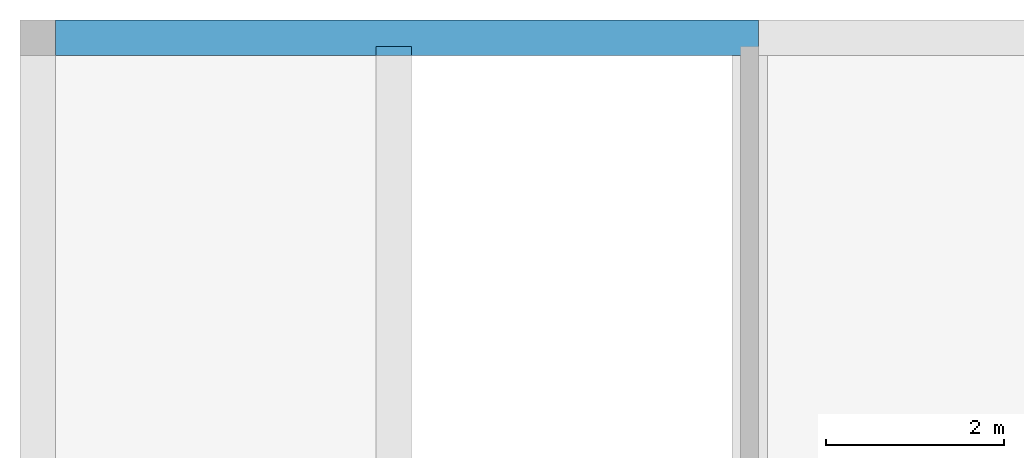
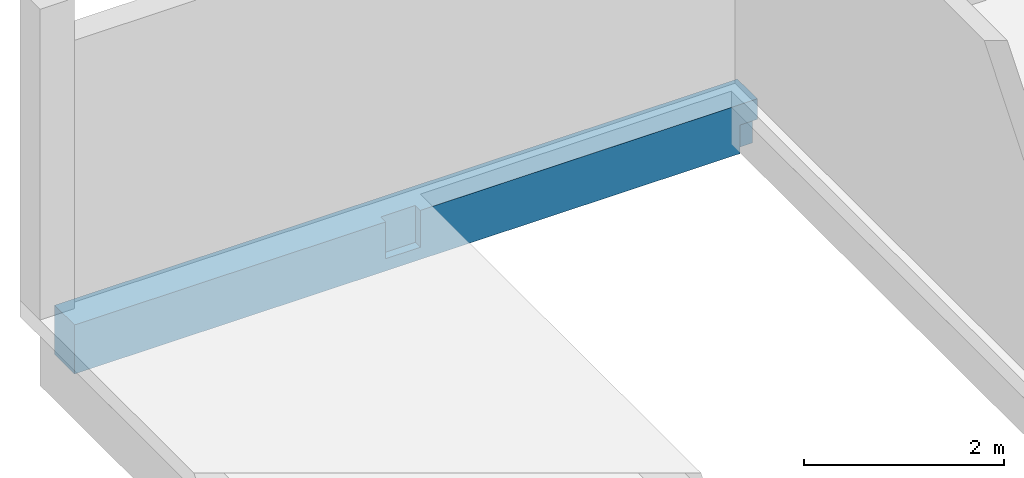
# One storey, part 3 of 3: 1 beam.
"""IFC4X3_ADD2 building model written with IfcOpenShell, lengths in millimetres."""

from ifc_helpers import new_model, entity, si_unit, converted_unit, derived_unit, direction, frame, frame_2d, origin, place, context, subcontext, project, spatial, rectangle, faceted_brep, source, transform, mapped, material, material_profile, profile_set, type_object, type_shapes, element, save


model = new_model("IFC4X3_ADD2")

# Units and contexts
model_context = context("Model", 3, precision=0.01, world=origin(), true_north=direction((6.123233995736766e-17, 1.0)))
plan_context = context("Plan", 3, precision=0.01, world=origin(), true_north=direction((6.123233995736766e-17, 1.0)))
body_context = subcontext(model_context, "Body", "Model", "MODEL_VIEW")
ifc_project = project(units=[si_unit("LENGTHUNIT", "METRE", prefix="MILLI"), converted_unit("PLANEANGLEUNIT", "DEGREE", entity("IfcPlaneAngleMeasure", 0.017453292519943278), si_unit("PLANEANGLEUNIT", "RADIAN"), dimensions=[0, 0, 0, 0, 0, 0, 0]), si_unit("AREAUNIT", "SQUARE_METRE"), si_unit("VOLUMEUNIT", "CUBIC_METRE"), derived_unit("THERMALTRANSMITTANCEUNIT", [(si_unit("MASSUNIT", "GRAM", prefix="KILO"), 1), (si_unit("THERMODYNAMICTEMPERATUREUNIT", "KELVIN"), -1), (si_unit("TIMEUNIT", "SECOND"), -3)]), derived_unit("USERDEFINED", [(si_unit("MASSUNIT", "GRAM", prefix="KILO"), 1), (si_unit("THERMODYNAMICTEMPERATUREUNIT", "KELVIN"), -1), (si_unit("TIMEUNIT", "SECOND"), -2)]), derived_unit("THERMALRESISTANCEUNIT", [(si_unit("MASSUNIT", "GRAM", prefix="KILO"), -1), (si_unit("TIMEUNIT", "SECOND"), 3), (si_unit("THERMODYNAMICTEMPERATUREUNIT", "KELVIN"), 1)]), si_unit("PRESSUREUNIT", "PASCAL"), derived_unit("MASSDENSITYUNIT", [(si_unit("MASSUNIT", "GRAM", prefix="KILO"), 1), (si_unit("LENGTHUNIT", "METRE"), -3)]), derived_unit("MODULUSOFELASTICITYUNIT", [(si_unit("MASSUNIT", "GRAM", prefix="KILO"), 1), (si_unit("TIMEUNIT", "SECOND"), -2), (si_unit("LENGTHUNIT", "METRE"), -1)]), derived_unit("THERMALEXPANSIONCOEFFICIENTUNIT", [(si_unit("THERMODYNAMICTEMPERATUREUNIT", "KELVIN"), -1)]), derived_unit("VAPORPERMEABILITYUNIT", [(si_unit("LENGTHUNIT", "METRE"), -1), (si_unit("TIMEUNIT", "SECOND"), 1)]), derived_unit("USERDEFINED", [(si_unit("MASSUNIT", "GRAM", prefix="KILO"), 1), (si_unit("TIMEUNIT", "SECOND"), -3), (si_unit("LENGTHUNIT", "METRE"), 3), (si_unit("ELECTRICCURRENTUNIT", "AMPERE"), -2)]), derived_unit("SPECIFICHEATCAPACITYUNIT", [(si_unit("THERMODYNAMICTEMPERATUREUNIT", "KELVIN"), -1), (si_unit("TIMEUNIT", "SECOND"), -2), (si_unit("LENGTHUNIT", "METRE"), 2)]), derived_unit("THERMALCONDUCTANCEUNIT", [(si_unit("MASSUNIT", "GRAM", prefix="KILO"), 1), (si_unit("THERMODYNAMICTEMPERATUREUNIT", "KELVIN"), -1), (si_unit("TIMEUNIT", "SECOND"), -3), (si_unit("LENGTHUNIT", "METRE"), 1)])], contexts=[model_context, plan_context])

# Site, building, storey
site_placement = place(None, origin())
site = spatial("IfcSite", under=ifc_project, at=site_placement, Name="Default", CompositionType="ELEMENT")
building_placement = place(site_placement, origin())
building = spatial("IfcBuilding", under=site, at=building_placement, Name="Building Name", CompositionType="ELEMENT")
storey_placement = place(building_placement, frame((0.0, 0.0, 4000.0)))
storey = spatial("IfcBuildingStorey", under=building, at=storey_placement, Name="L2", CompositionType="ELEMENT", Elevation=4000.0000000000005)

# Beam
ifc_material = material(Name="Concrete - Cast-in-Place Concrete", Category="Concrete")
ifc_material_profile = material_profile(ifc_material, rectangle(XDim=600.0, YDim=400.0000000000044, at=frame_2d((-1.0942358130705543e-12, 2.842170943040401e-14), x_axis=(0.0, 1.0))), Name="400 x 600mm")
ifc_profile_set = profile_set([ifc_material_profile], Name="400 x 600mm")
beam_type = type_object("IfcBeamType", Name="Concrete - Rectangular Beam:400 x 600mm", PredefinedType="BEAM", material=ifc_profile_set)
shared_shape = source(origin(), body_context, "Body", "Brep", [
    faceted_brep([(7900.0, 0.0, 600.0), (7900.0, 400.0, 600.0), (0.0, 400.0, 600.0), (0.0, 0.0, 600.0), (3600.0, 0.0, 600.0), (3600.0, 100.0, 600.0), (4000.0, 100.0, 600.0), (4000.0, 0.0, 600.0), (7600.0, 0.0, 600.0), (0.0, 0.0, 0.0), (7700.0, 0.0, 0.0), (7700.0, 0.0, 150.0), (7700.0, 0.0, 350.0), (7900.0, 0.0, 350.0), (4000.0, 0.0, 150.0), (3600.0, 0.0, 150.0), (0.0, 400.0, 0.0), (7900.0, 400.0, 0.0), (7900.0, 100.0, 0.0), (7700.0, 100.0, 0.0), (0.0, 100.0, 0.0), (7700.0, 100.0, 350.0), (7900.0, 100.0, 350.0), (4000.0, 100.0, 150.0), (3600.0, 100.0, 150.0)], [[[0, 1, 2, 3, 4, 5, 6, 7, 8]], [[3, 9, 10, 11, 12, 13, 0, 8, 7, 14, 15, 4]], [[16, 17, 18, 19, 10, 9, 20]], [[1, 17, 16, 2]], [[9, 3, 2, 16, 20]], [[19, 21, 12, 11, 10]], [[21, 22, 13, 12]], [[22, 21, 19, 18]], [[6, 23, 14, 7]], [[24, 5, 4, 15]], [[1, 0, 13, 22, 18, 17]], [[23, 24, 15, 14]], [[23, 6, 5, 24]]]),
])
type_shapes(beam_type, [shared_shape])
beam_placement = place(storey_placement, frame((-12767.951236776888, 11896.696870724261, -800.0)))
element("IfcBeam", 1, at=beam_placement, inside=storey, type_object=beam_type, material=ifc_material, Name="Concrete - Rectangular Beam:400 x 600mm", ObjectType="Concrete - Rectangular Beam:400 x 600mm", PredefinedType="BEAM", context=body_context, shape_type="MappedRepresentation", body=[
    mapped(shared_shape, transform((0.0, 0.0, 0.0), scale=1.0)),
])

save(model, "model.ifc")
